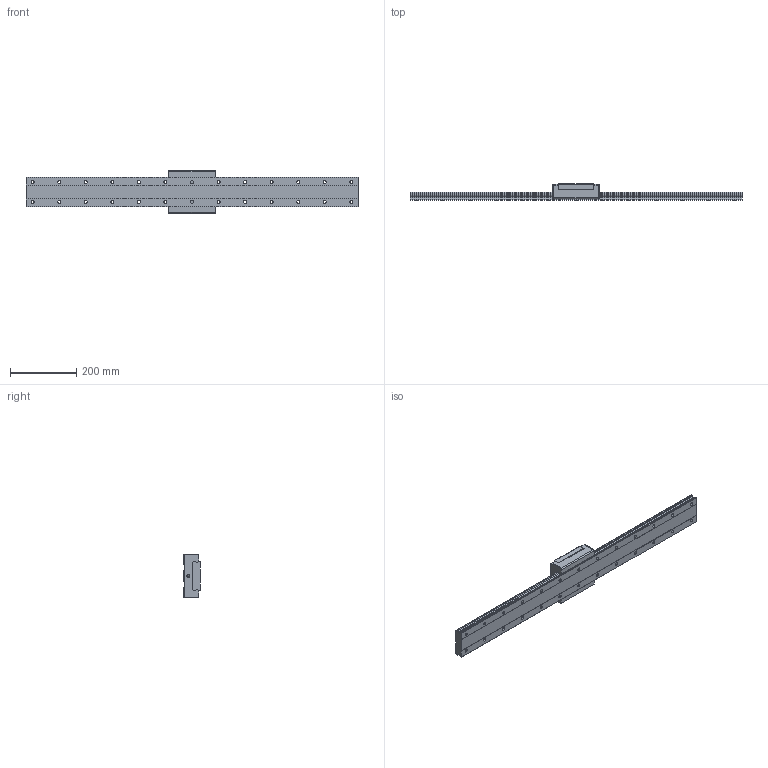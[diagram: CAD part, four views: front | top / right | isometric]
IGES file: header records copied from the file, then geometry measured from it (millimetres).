
Start section: Data from XPlus IGES,  Spatial Corp. Copyright (c) 1999-2004
Global section: file name: SHW50CR1UU1000200429.5000.igs; native system:  By Spatial Corp.; preprocessor: XPlus ACIS/IGES 3.0; author: Noname; organization: Noname; date: 20161110.134654; units: millimetre
Bounding box: 1000 x 50 x 130 mm (x, y, z)
Surface area: 323796.5 mm2 (no closed solid volume)
Topology: 0 solids, 0 shells, 292 faces, 1500 edges, 1484 vertices
Faces by surface type: revolution 188, extrusion 104
